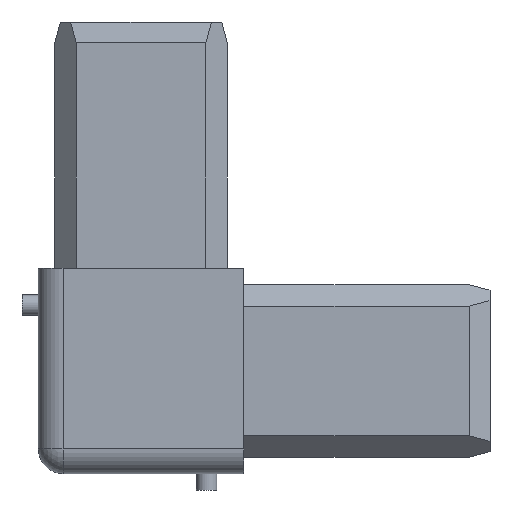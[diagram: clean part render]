
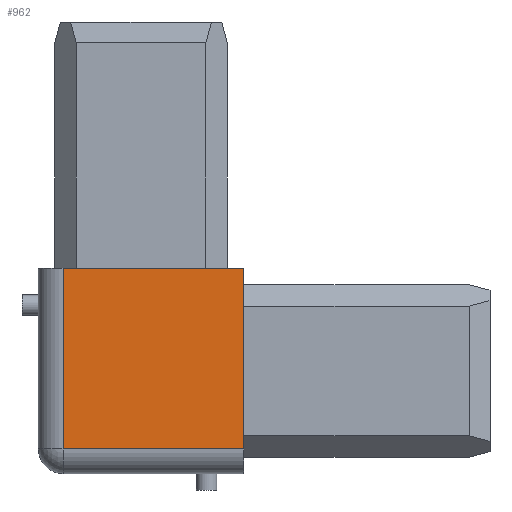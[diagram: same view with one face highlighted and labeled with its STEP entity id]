
A CAD part, left-side view. The second image highlights one B-rep face of the part: STEP entity #962.
In plain terms, the highlighted planar face has unit normal (-1, 0, 0).
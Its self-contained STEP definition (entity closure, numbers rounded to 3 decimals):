
#81 = LINE ( 'NONE', #1201, #1174 ) ;
#141 = VERTEX_POINT ( 'NONE', #146 ) ;
#146 = CARTESIAN_POINT ( 'NONE',  ( -12.5, 9.5, -9.5 ) ) ;
#159 = AXIS2_PLACEMENT_3D ( 'NONE', #1257, #905, #686 ) ;
#262 = LINE ( 'NONE', #1030, #355 ) ;
#304 = EDGE_CURVE ( 'NONE', #655, #852, #1423, .T. ) ;
#313 = DIRECTION ( 'NONE',  ( 0., 0., -1. ) ) ;
#321 = VECTOR ( 'NONE', #1436, 1000. ) ;
#355 = VECTOR ( 'NONE', #1146, 1000. ) ;
#375 = EDGE_CURVE ( 'NONE', #1346, #141, #81, .T. ) ;
#498 = ORIENTED_EDGE ( 'NONE', *, *, #375, .T. ) ;
#583 = FACE_OUTER_BOUND ( 'NONE', #598, .T. ) ;
#598 = EDGE_LOOP ( 'NONE', ( #498, #956, #861, #983 ) ) ;
#609 = CARTESIAN_POINT ( 'NONE',  ( -12.5, -12.5, 12.5 ) ) ;
#624 = CARTESIAN_POINT ( 'NONE',  ( -12.5, 9.5, 12.5 ) ) ;
#655 = VERTEX_POINT ( 'NONE', #945 ) ;
#686 = DIRECTION ( 'NONE',  ( 0., 1., 0. ) ) ;
#743 = LINE ( 'NONE', #1206, #321 ) ;
#829 = DIRECTION ( 'NONE',  ( 0., 0., -1. ) ) ;
#852 = VERTEX_POINT ( 'NONE', #1323 ) ;
#855 = EDGE_CURVE ( 'NONE', #655, #1346, #743, .T. ) ;
#861 = ORIENTED_EDGE ( 'NONE', *, *, #304, .F. ) ;
#905 = DIRECTION ( 'NONE',  ( 1., 0., 0. ) ) ;
#945 = CARTESIAN_POINT ( 'NONE',  ( -12.5, -12.5, 12.5 ) ) ;
#956 = ORIENTED_EDGE ( 'NONE', *, *, #1171, .T. ) ;
#962 = ADVANCED_FACE ( 'NONE', ( #583 ), #1456, .F. ) ;
#983 = ORIENTED_EDGE ( 'NONE', *, *, #855, .T. ) ;
#1030 = CARTESIAN_POINT ( 'NONE',  ( -12.5, 12.5, -9.5 ) ) ;
#1146 = DIRECTION ( 'NONE',  ( 0., -1., 0. ) ) ;
#1171 = EDGE_CURVE ( 'NONE', #141, #852, #262, .T. ) ;
#1174 = VECTOR ( 'NONE', #313, 1000. ) ;
#1201 = CARTESIAN_POINT ( 'NONE',  ( -12.5, 9.5, 42.5 ) ) ;
#1206 = CARTESIAN_POINT ( 'NONE',  ( -12.5, -42.5, 12.5 ) ) ;
#1257 = CARTESIAN_POINT ( 'NONE',  ( -12.5, 12.5, 42.5 ) ) ;
#1323 = CARTESIAN_POINT ( 'NONE',  ( -12.5, -12.5, -9.5 ) ) ;
#1337 = VECTOR ( 'NONE', #829, 1000. ) ;
#1346 = VERTEX_POINT ( 'NONE', #624 ) ;
#1423 = LINE ( 'NONE', #609, #1337 ) ;
#1436 = DIRECTION ( 'NONE',  ( 0., 1., 0. ) ) ;
#1456 = PLANE ( 'NONE',  #159 ) ;
